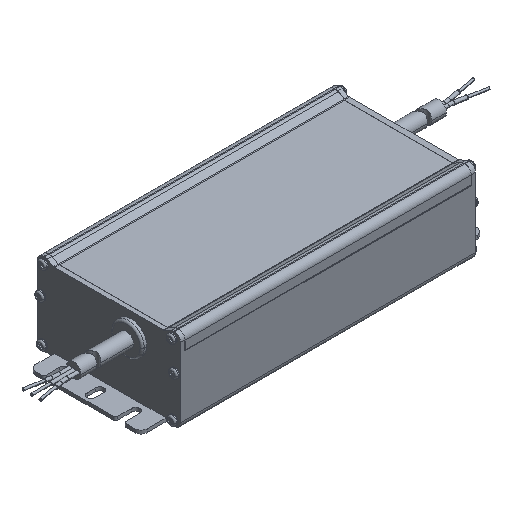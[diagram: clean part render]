
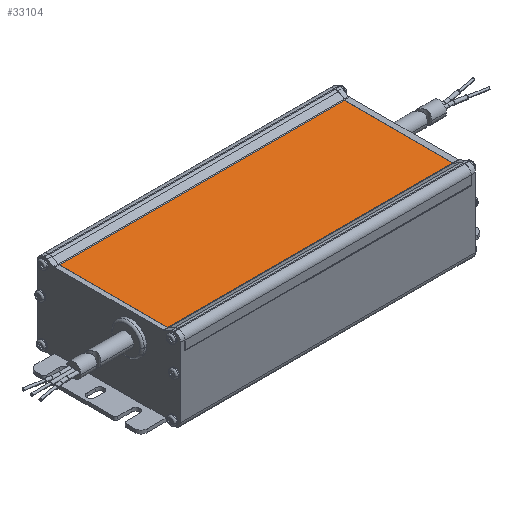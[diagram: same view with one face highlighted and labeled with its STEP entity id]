
A CAD part, isometric view. The second image highlights one B-rep face of the part: STEP entity #33104.
In plain terms, the highlighted planar face has unit normal (0, 0, 1).
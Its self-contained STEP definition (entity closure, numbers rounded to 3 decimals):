
#4091=CARTESIAN_POINT('',(8.5,-25.801,37.05));
#4093=DIRECTION('',(1.,0.,0.));
#4094=VECTOR('',#4093,135.5);
#4095=CARTESIAN_POINT('',(8.5,-25.801,37.05));
#4096=LINE('',#4095,#4094);
#4106=DIRECTION('',(0.,-1.,0.));
#4107=VECTOR('',#4106,51.504);
#4108=CARTESIAN_POINT('',(8.5,25.702,37.05));
#4109=LINE('',#4108,#4107);
#4110=DIRECTION('',(0.,-1.,0.));
#4111=VECTOR('',#4110,51.502);
#4112=CARTESIAN_POINT('',(144.,25.701,37.05));
#4113=LINE('',#4112,#4111);
#4130=DIRECTION('',(-1.,0.,0.));
#4131=VECTOR('',#4130,135.5);
#4132=CARTESIAN_POINT('',(144.,25.701,37.05));
#4133=LINE('',#4132,#4131);
#25756=CARTESIAN_POINT('',(144.,-25.801,37.05));
#25757=VERTEX_POINT('',#25756);
#25758=CARTESIAN_POINT('',(144.,25.701,37.05));
#25759=VERTEX_POINT('',#25758);
#26996=VERTEX_POINT('',#4091);
#26997=CARTESIAN_POINT('',(8.5,25.702,37.05));
#26998=VERTEX_POINT('',#26997);
#33092=CARTESIAN_POINT('',(8.5,25.701,37.05));
#33093=DIRECTION('',(0.,0.,1.));
#33094=DIRECTION('',(0.,-1.,0.));
#33095=AXIS2_PLACEMENT_3D('',#33092,#33093,#33094);
#33096=PLANE('',#33095);
#33097=ORIENTED_EDGE('',*,*,#28037,.F.);
#33099=ORIENTED_EDGE('',*,*,#33098,.F.);
#33100=ORIENTED_EDGE('',*,*,#28321,.T.);
#33101=ORIENTED_EDGE('',*,*,#33085,.F.);
#33102=EDGE_LOOP('',(#33097,#33099,#33100,#33101));
#33103=FACE_OUTER_BOUND('',#33102,.F.);
#33104=ADVANCED_FACE('',(#33103),#33096,.T.);
#28037=EDGE_CURVE('',#26998,#26996,#4109,.T.);
#28321=EDGE_CURVE('',#25759,#25757,#4113,.T.);
#33085=EDGE_CURVE('',#26996,#25757,#4096,.T.);
#33098=EDGE_CURVE('',#25759,#26998,#4133,.T.);
